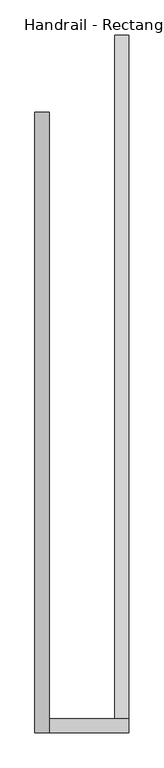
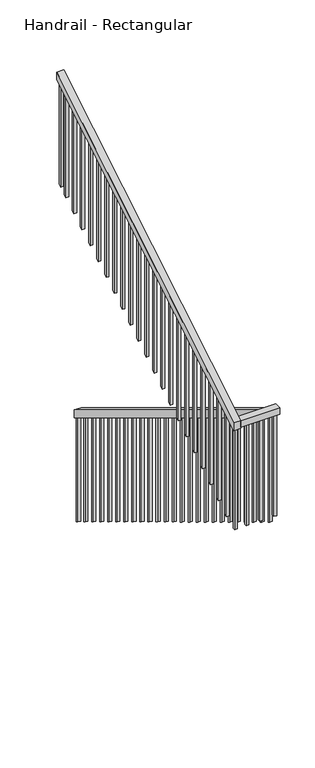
"""IFC4 building model written with IfcOpenShell, lengths in millimetres: railing geometry, Handrail - Rectangular."""

from ifc_helpers import new_model, si_unit, frame, origin, place, context, project, spatial, polyline, outline, extrude, source, transform, mapped, element, save


def handrail_rectangular_09896a94(model_context):
    return source(origin(), model_context, "Body", "SweptSolid", [
        extrude(outline(polyline([(-5400.0103492, -1964.2666667), (-5400.0103492, -2023.6681269), (-7863.8103492, -530.4560057), (-7863.8103492, -471.0545455), (-5400.0103492, -1964.2666667)])), frame((1694.5955133, 0.0, 0.0), z_axis=(1.0, 0.0, 0.0), x_axis=(0.0, 1.0, 0.0)), (0.0, 0.0, 1.0), 50.8),
        extrude(outline(polyline([(1745.3955133, -7863.8103492), (1745.3955133, -7914.6103492), (1457.5474728, -7914.6103492), (1457.5474728, -7863.8103492), (1745.3955133, -7863.8103492)])), frame((0.0, 0.0, -491.0666667), z_axis=(0.0, 0.0, 1.0), x_axis=(1.0, 0.0, 0.0)), (0.0, 0.0, 1.0), 50.8),
        extrude(outline(polyline([(-7914.6103492, -499.6681269), (-7914.6103492, -440.2666667), (-5679.4103492, 914.4), (-5679.4103492, 854.9985397), (-7914.6103492, -499.6681269)])), frame((1406.7474728, 0.0, 0.0), z_axis=(1.0, 0.0, 0.0), x_axis=(0.0, 1.0, 0.0)), (0.0, 0.0, 1.0), 50.8),
        extrude(outline(polyline([(-5765.1353492, 803.0439943), (-5746.0853492, 814.5894488), (-5746.0853492, 2.3720877), (-5765.1353492, -9.1733668), (-5765.1353492, 803.0439943)])), frame((1422.6224728, 0.0, 0.0), z_axis=(1.0, 0.0, 0.0), x_axis=(0.0, 1.0, 0.0)), (0.0, 0.0, 1.0), 19.05),
        extrude(outline(polyline([(-5866.7353492, 741.4682367), (-5847.6853492, 753.0136913), (-5847.6853492, -59.2036699), (-5866.7353492, -70.7491244), (-5866.7353492, 741.4682367)])), frame((1422.6224728, 0.0, 0.0), z_axis=(1.0, 0.0, 0.0), x_axis=(0.0, 1.0, 0.0)), (0.0, 0.0, 1.0), 19.05),
        extrude(outline(polyline([(-5968.3353492, 679.8924791), (-5949.2853492, 691.4379337), (-5949.2853492, -120.7794274), (-5968.3353492, -132.324882), (-5968.3353492, 679.8924791)])), frame((1422.6224728, 0.0, 0.0), z_axis=(1.0, 0.0, 0.0), x_axis=(0.0, 1.0, 0.0)), (0.0, 0.0, 1.0), 19.05),
        extrude(outline(polyline([(-6069.9353492, 618.3167216), (-6050.8853492, 629.8621761), (-6050.8853492, -182.355185), (-6069.9353492, -193.9006396), (-6069.9353492, 618.3167216)])), frame((1422.6224728, 0.0, 0.0), z_axis=(1.0, 0.0, 0.0), x_axis=(0.0, 1.0, 0.0)), (0.0, 0.0, 1.0), 19.05),
        extrude(outline(polyline([(-6171.5353492, 556.740964), (-6152.4853492, 568.2864185), (-6152.4853492, -243.9309426), (-6171.5353492, -255.4763971), (-6171.5353492, 556.740964)])), frame((1422.6224728, 0.0, 0.0), z_axis=(1.0, 0.0, 0.0), x_axis=(0.0, 1.0, 0.0)), (0.0, 0.0, 1.0), 19.05),
        extrude(outline(polyline([(-6273.1353492, 495.1652064), (-6254.0853492, 506.710661), (-6254.0853492, -305.5067002), (-6273.1353492, -317.0521547), (-6273.1353492, 495.1652064)])), frame((1422.6224728, 0.0, 0.0), z_axis=(1.0, 0.0, 0.0), x_axis=(0.0, 1.0, 0.0)), (0.0, 0.0, 1.0), 19.05),
        extrude(outline(polyline([(-6374.7353492, 433.5894488), (-6355.6853492, 445.1349034), (-6355.6853492, -367.0824577), (-6374.7353492, -378.6279123), (-6374.7353492, 433.5894488)])), frame((1422.6224728, 0.0, 0.0), z_axis=(1.0, 0.0, 0.0), x_axis=(0.0, 1.0, 0.0)), (0.0, 0.0, 1.0), 19.05),
        extrude(outline(polyline([(-6476.3353492, 372.0136913), (-6457.2853492, 383.5591458), (-6457.2853492, -428.6582153), (-6476.3353492, -440.2036699), (-6476.3353492, 372.0136913)])), frame((1422.6224728, 0.0, 0.0), z_axis=(1.0, 0.0, 0.0), x_axis=(0.0, 1.0, 0.0)), (0.0, 0.0, 1.0), 19.05),
        extrude(outline(polyline([(-6577.9353492, 310.4379337), (-6558.8853492, 321.9833882), (-6558.8853492, -490.2339729), (-6577.9353492, -501.7794274), (-6577.9353492, 310.4379337)])), frame((1422.6224728, 0.0, 0.0), z_axis=(1.0, 0.0, 0.0), x_axis=(0.0, 1.0, 0.0)), (0.0, 0.0, 1.0), 19.05),
        extrude(outline(polyline([(-6679.5353492, 248.8621761), (-6660.4853492, 260.4076307), (-6660.4853492, -551.8097305), (-6679.5353492, -563.355185), (-6679.5353492, 248.8621761)])), frame((1422.6224728, 0.0, 0.0), z_axis=(1.0, 0.0, 0.0), x_axis=(0.0, 1.0, 0.0)), (0.0, 0.0, 1.0), 19.05),
        extrude(outline(polyline([(-6781.1353492, 187.2864185), (-6762.0853492, 198.8318731), (-6762.0853492, -613.385488), (-6781.1353492, -624.9309426), (-6781.1353492, 187.2864185)])), frame((1422.6224728, 0.0, 0.0), z_axis=(1.0, 0.0, 0.0), x_axis=(0.0, 1.0, 0.0)), (0.0, 0.0, 1.0), 19.05),
        extrude(outline(polyline([(-6882.7353492, 125.710661), (-6863.6853492, 137.2561155), (-6863.6853492, -674.9612456), (-6882.7353492, -686.5067002), (-6882.7353492, 125.710661)])), frame((1422.6224728, 0.0, 0.0), z_axis=(1.0, 0.0, 0.0), x_axis=(0.0, 1.0, 0.0)), (0.0, 0.0, 1.0), 19.05),
        extrude(outline(polyline([(-6984.3353492, 64.1349034), (-6965.2853492, 75.6803579), (-6965.2853492, -736.5370032), (-6984.3353492, -748.0824577), (-6984.3353492, 64.1349034)])), frame((1422.6224728, 0.0, 0.0), z_axis=(1.0, 0.0, 0.0), x_axis=(0.0, 1.0, 0.0)), (0.0, 0.0, 1.0), 19.05),
        extrude(outline(polyline([(-7085.9353492, 2.5591458), (-7066.8853492, 14.1046004), (-7066.8853492, -798.1127608), (-7085.9353492, -809.6582153), (-7085.9353492, 2.5591458)])), frame((1422.6224728, 0.0, 0.0), z_axis=(1.0, 0.0, 0.0), x_axis=(0.0, 1.0, 0.0)), (0.0, 0.0, 1.0), 19.05),
        extrude(outline(polyline([(-7187.5353492, -59.0166118), (-7168.4853492, -47.4711572), (-7168.4853492, -859.6885183), (-7187.5353492, -871.2339729), (-7187.5353492, -59.0166118)])), frame((1422.6224728, 0.0, 0.0), z_axis=(1.0, 0.0, 0.0), x_axis=(0.0, 1.0, 0.0)), (0.0, 0.0, 1.0), 19.05),
        extrude(outline(polyline([(-7289.1353492, -120.5923693), (-7270.0853492, -109.0469148), (-7270.0853492, -921.2642759), (-7289.1353492, -932.8097305), (-7289.1353492, -120.5923693)])), frame((1422.6224728, 0.0, 0.0), z_axis=(1.0, 0.0, 0.0), x_axis=(0.0, 1.0, 0.0)), (0.0, 0.0, 1.0), 19.05),
        extrude(outline(polyline([(-7390.7353492, -182.1681269), (-7371.6853492, -170.6226724), (-7371.6853492, -982.8400335), (-7390.7353492, -994.385488), (-7390.7353492, -182.1681269)])), frame((1422.6224728, 0.0, 0.0), z_axis=(1.0, 0.0, 0.0), x_axis=(0.0, 1.0, 0.0)), (0.0, 0.0, 1.0), 19.05),
        extrude(outline(polyline([(-7492.3353492, -243.7438845), (-7473.2853492, -232.19843), (-7473.2853492, -1044.4157911), (-7492.3353492, -1055.9612456), (-7492.3353492, -243.7438845)])), frame((1422.6224728, 0.0, 0.0), z_axis=(1.0, 0.0, 0.0), x_axis=(0.0, 1.0, 0.0)), (0.0, 0.0, 1.0), 19.05),
        extrude(outline(polyline([(-7593.9353492, -305.3196421), (-7574.8853492, -293.7741875), (-7574.8853492, -1105.9915486), (-7593.9353492, -1117.5370032), (-7593.9353492, -305.3196421)])), frame((1422.6224728, 0.0, 0.0), z_axis=(1.0, 0.0, 0.0), x_axis=(0.0, 1.0, 0.0)), (0.0, 0.0, 1.0), 19.05),
        extrude(outline(polyline([(-7695.5353492, -366.8953996), (-7676.4853492, -355.3499451), (-7676.4853492, -1167.5673062), (-7695.5353492, -1179.1127608), (-7695.5353492, -366.8953996)])), frame((1422.6224728, 0.0, 0.0), z_axis=(1.0, 0.0, 0.0), x_axis=(0.0, 1.0, 0.0)), (0.0, 0.0, 1.0), 19.05),
        extrude(outline(polyline([(-7797.1353492, -428.4711572), (-7778.0853492, -416.9257027), (-7778.0853492, -1229.1430638), (-7797.1353492, -1240.6885183), (-7797.1353492, -428.4711572)])), frame((1422.6224728, 0.0, 0.0), z_axis=(1.0, 0.0, 0.0), x_axis=(0.0, 1.0, 0.0)), (0.0, 0.0, 1.0), 19.05),
        extrude(outline(polyline([(1526.3205133, -7879.6853492), (1526.3205133, -7898.7353492), (1507.2705133, -7898.7353492), (1507.2705133, -7879.6853492), (1526.3205133, -7879.6853492)])), frame((0.0, 0.0, -1278.4666667), z_axis=(0.0, 0.0, 1.0), x_axis=(1.0, 0.0, 0.0)), (0.0, 0.0, 1.0), 787.4),
        extrude(outline(polyline([(1627.9205133, -7879.6853492), (1627.9205133, -7898.7353492), (1608.8705133, -7898.7353492), (1608.8705133, -7879.6853492), (1627.9205133, -7879.6853492)])), frame((0.0, 0.0, -1278.4666667), z_axis=(0.0, 0.0, 1.0), x_axis=(1.0, 0.0, 0.0)), (0.0, 0.0, 1.0), 787.4),
        extrude(outline(polyline([(-7847.9353492, -540.0772178), (-7828.8853492, -551.6226724), (-7828.8853492, -1363.8400335), (-7847.9353492, -1352.2945789), (-7847.9353492, -540.0772178)])), frame((1710.4705133, 0.0, 0.0), z_axis=(1.0, 0.0, 0.0), x_axis=(0.0, 1.0, 0.0)), (0.0, 0.0, 1.0), 19.05),
        extrude(outline(polyline([(-7746.3353492, -601.6529754), (-7727.2853492, -613.19843), (-7727.2853492, -1425.4157911), (-7746.3353492, -1413.8703365), (-7746.3353492, -601.6529754)])), frame((1710.4705133, 0.0, 0.0), z_axis=(1.0, 0.0, 0.0), x_axis=(0.0, 1.0, 0.0)), (0.0, 0.0, 1.0), 19.05),
        extrude(outline(polyline([(-7644.7353492, -663.228733), (-7625.6853492, -674.7741875), (-7625.6853492, -1486.9915486), (-7644.7353492, -1475.4460941), (-7644.7353492, -663.228733)])), frame((1710.4705133, 0.0, 0.0), z_axis=(1.0, 0.0, 0.0), x_axis=(0.0, 1.0, 0.0)), (0.0, 0.0, 1.0), 19.05),
        extrude(outline(polyline([(-7543.1353492, -724.8044906), (-7524.0853492, -736.3499451), (-7524.0853492, -1548.5673062), (-7543.1353492, -1537.0218517), (-7543.1353492, -724.8044906)])), frame((1710.4705133, 0.0, 0.0), z_axis=(1.0, 0.0, 0.0), x_axis=(0.0, 1.0, 0.0)), (0.0, 0.0, 1.0), 19.05),
        extrude(outline(polyline([(-7441.5353492, -786.3802481), (-7422.4853492, -797.9257027), (-7422.4853492, -1610.1430638), (-7441.5353492, -1598.5976092), (-7441.5353492, -786.3802481)])), frame((1710.4705133, 0.0, 0.0), z_axis=(1.0, 0.0, 0.0), x_axis=(0.0, 1.0, 0.0)), (0.0, 0.0, 1.0), 19.05),
        extrude(outline(polyline([(-7339.9353492, -847.9560057), (-7320.8853492, -859.5014603), (-7320.8853492, -1671.7188214), (-7339.9353492, -1660.1733668), (-7339.9353492, -847.9560057)])), frame((1710.4705133, 0.0, 0.0), z_axis=(1.0, 0.0, 0.0), x_axis=(0.0, 1.0, 0.0)), (0.0, 0.0, 1.0), 19.05),
        extrude(outline(polyline([(-7238.3353492, -909.5317633), (-7219.2853492, -921.0772178), (-7219.2853492, -1733.2945789), (-7238.3353492, -1721.7491244), (-7238.3353492, -909.5317633)])), frame((1710.4705133, 0.0, 0.0), z_axis=(1.0, 0.0, 0.0), x_axis=(0.0, 1.0, 0.0)), (0.0, 0.0, 1.0), 19.05),
        extrude(outline(polyline([(-7136.7353492, -971.1075209), (-7117.6853492, -982.6529754), (-7117.6853492, -1794.8703365), (-7136.7353492, -1783.324882), (-7136.7353492, -971.1075209)])), frame((1710.4705133, 0.0, 0.0), z_axis=(1.0, 0.0, 0.0), x_axis=(0.0, 1.0, 0.0)), (0.0, 0.0, 1.0), 19.05),
        extrude(outline(polyline([(-7035.1353492, -1032.6832784), (-7016.0853492, -1044.228733), (-7016.0853492, -1856.4460941), (-7035.1353492, -1844.9006396), (-7035.1353492, -1032.6832784)])), frame((1710.4705133, 0.0, 0.0), z_axis=(1.0, 0.0, 0.0), x_axis=(0.0, 1.0, 0.0)), (0.0, 0.0, 1.0), 19.05),
        extrude(outline(polyline([(-6933.5353492, -1094.259036), (-6914.4853492, -1105.8044906), (-6914.4853492, -1918.0218517), (-6933.5353492, -1906.4763971), (-6933.5353492, -1094.259036)])), frame((1710.4705133, 0.0, 0.0), z_axis=(1.0, 0.0, 0.0), x_axis=(0.0, 1.0, 0.0)), (0.0, 0.0, 1.0), 19.05),
        extrude(outline(polyline([(-6831.9353492, -1155.8347936), (-6812.8853492, -1167.3802481), (-6812.8853492, -1979.5976092), (-6831.9353492, -1968.0521547), (-6831.9353492, -1155.8347936)])), frame((1710.4705133, 0.0, 0.0), z_axis=(1.0, 0.0, 0.0), x_axis=(0.0, 1.0, 0.0)), (0.0, 0.0, 1.0), 19.05),
        extrude(outline(polyline([(-6730.3353492, -1217.4105512), (-6711.2853492, -1228.9560057), (-6711.2853492, -2041.1733668), (-6730.3353492, -2029.6279123), (-6730.3353492, -1217.4105512)])), frame((1710.4705133, 0.0, 0.0), z_axis=(1.0, 0.0, 0.0), x_axis=(0.0, 1.0, 0.0)), (0.0, 0.0, 1.0), 19.05),
        extrude(outline(polyline([(-6628.7353492, -1278.9863087), (-6609.6853492, -1290.5317633), (-6609.6853492, -2102.7491244), (-6628.7353492, -2091.2036699), (-6628.7353492, -1278.9863087)])), frame((1710.4705133, 0.0, 0.0), z_axis=(1.0, 0.0, 0.0), x_axis=(0.0, 1.0, 0.0)), (0.0, 0.0, 1.0), 19.05),
        extrude(outline(polyline([(-6527.1353492, -1340.5620663), (-6508.0853492, -1352.1075209), (-6508.0853492, -2164.324882), (-6527.1353492, -2152.7794274), (-6527.1353492, -1340.5620663)])), frame((1710.4705133, 0.0, 0.0), z_axis=(1.0, 0.0, 0.0), x_axis=(0.0, 1.0, 0.0)), (0.0, 0.0, 1.0), 19.05),
        extrude(outline(polyline([(-6425.5353492, -1402.1378239), (-6406.4853492, -1413.6832784), (-6406.4853492, -2225.9006396), (-6425.5353492, -2214.355185), (-6425.5353492, -1402.1378239)])), frame((1710.4705133, 0.0, 0.0), z_axis=(1.0, 0.0, 0.0), x_axis=(0.0, 1.0, 0.0)), (0.0, 0.0, 1.0), 19.05),
        extrude(outline(polyline([(-6323.9353492, -1463.7135815), (-6304.8853492, -1475.259036), (-6304.8853492, -2287.4763971), (-6323.9353492, -2275.9309426), (-6323.9353492, -1463.7135815)])), frame((1710.4705133, 0.0, 0.0), z_axis=(1.0, 0.0, 0.0), x_axis=(0.0, 1.0, 0.0)), (0.0, 0.0, 1.0), 19.05),
        extrude(outline(polyline([(-6222.3353492, -1525.289339), (-6203.2853492, -1536.8347936), (-6203.2853492, -2349.0521547), (-6222.3353492, -2337.5067002), (-6222.3353492, -1525.289339)])), frame((1710.4705133, 0.0, 0.0), z_axis=(1.0, 0.0, 0.0), x_axis=(0.0, 1.0, 0.0)), (0.0, 0.0, 1.0), 19.05),
        extrude(outline(polyline([(-6120.7353492, -1586.8650966), (-6101.6853492, -1598.4105512), (-6101.6853492, -2410.6279123), (-6120.7353492, -2399.0824577), (-6120.7353492, -1586.8650966)])), frame((1710.4705133, 0.0, 0.0), z_axis=(1.0, 0.0, 0.0), x_axis=(0.0, 1.0, 0.0)), (0.0, 0.0, 1.0), 19.05),
        extrude(outline(polyline([(-6019.1353492, -1648.4408542), (-6000.0853492, -1659.9863087), (-6000.0853492, -2472.2036699), (-6019.1353492, -2460.6582153), (-6019.1353492, -1648.4408542)])), frame((1710.4705133, 0.0, 0.0), z_axis=(1.0, 0.0, 0.0), x_axis=(0.0, 1.0, 0.0)), (0.0, 0.0, 1.0), 19.05),
        extrude(outline(polyline([(-5917.5353492, -1710.0166118), (-5898.4853492, -1721.5620663), (-5898.4853492, -2533.7794274), (-5917.5353492, -2522.2339729), (-5917.5353492, -1710.0166118)])), frame((1710.4705133, 0.0, 0.0), z_axis=(1.0, 0.0, 0.0), x_axis=(0.0, 1.0, 0.0)), (0.0, 0.0, 1.0), 19.05),
        extrude(outline(polyline([(-5815.9353492, -1771.5923693), (-5796.8853492, -1783.1378239), (-5796.8853492, -2595.355185), (-5815.9353492, -2583.8097305), (-5815.9353492, -1771.5923693)])), frame((1710.4705133, 0.0, 0.0), z_axis=(1.0, 0.0, 0.0), x_axis=(0.0, 1.0, 0.0)), (0.0, 0.0, 1.0), 19.05),
        extrude(outline(polyline([(-5714.3353492, -1833.1681269), (-5695.2853492, -1844.7135815), (-5695.2853492, -2656.9309426), (-5714.3353492, -2645.385488), (-5714.3353492, -1833.1681269)])), frame((1710.4705133, 0.0, 0.0), z_axis=(1.0, 0.0, 0.0), x_axis=(0.0, 1.0, 0.0)), (0.0, 0.0, 1.0), 19.05),
        extrude(outline(polyline([(-5612.7353492, -1894.7438845), (-5593.6853492, -1906.289339), (-5593.6853492, -2718.5067002), (-5612.7353492, -2706.9612456), (-5612.7353492, -1894.7438845)])), frame((1710.4705133, 0.0, 0.0), z_axis=(1.0, 0.0, 0.0), x_axis=(0.0, 1.0, 0.0)), (0.0, 0.0, 1.0), 19.05),
        extrude(outline(polyline([(-5511.1353492, -1956.3196421), (-5492.0853492, -1967.8650966), (-5492.0853492, -2780.0824577), (-5511.1353492, -2768.5370032), (-5511.1353492, -1956.3196421)])), frame((1710.4705133, 0.0, 0.0), z_axis=(1.0, 0.0, 0.0), x_axis=(0.0, 1.0, 0.0)), (0.0, 0.0, 1.0), 19.05),
        extrude(outline(polyline([(-7898.7353492, -490.0469148), (-7879.6853492, -478.5014603), (-7879.6853492, -1278.4666667), (-7898.7353492, -1278.4666667), (-7898.7353492, -490.0469148)])), frame((1422.6224728, 0.0, 0.0), z_axis=(1.0, 0.0, 0.0), x_axis=(0.0, 1.0, 0.0)), (0.0, 0.0, 1.0), 19.05),
        extrude(outline(polyline([(1729.5205133, -7879.6853492), (1729.5205133, -7898.7353492), (1710.4705133, -7898.7353492), (1710.4705133, -7879.6853492), (1729.5205133, -7879.6853492)])), frame((0.0, 0.0, -1278.4666667), z_axis=(0.0, 0.0, 1.0), x_axis=(1.0, 0.0, 0.0)), (0.0, 0.0, 1.0), 787.4),
        extrude(outline(polyline([(-5698.4603492, 843.4530852), (-5679.4103492, 854.9985397), (-5679.4103492, 42.7811786), (-5698.4603492, 31.2357241), (-5698.4603492, 843.4530852)])), frame((1422.6224728, 0.0, 0.0), z_axis=(1.0, 0.0, 0.0), x_axis=(0.0, 1.0, 0.0)), (0.0, 0.0, 1.0), 19.05),
        extrude(outline(polyline([(-5419.0603492, -2012.1226724), (-5400.0103492, -2023.6681269), (-5400.0103492, -2835.885488), (-5419.0603492, -2824.3400335), (-5419.0603492, -2012.1226724)])), frame((1710.4705133, 0.0, 0.0), z_axis=(1.0, 0.0, 0.0), x_axis=(0.0, 1.0, 0.0)), (0.0, 0.0, 1.0), 19.05),
    ])


if __name__ == "__main__":
    model = new_model("IFC4")
    model_context = context("Model", 3, world=origin())
    ifc_project = project(units=[si_unit("LENGTHUNIT", "METRE", prefix="MILLI")], contexts=[model_context])
    site = spatial("IfcSite", under=ifc_project)
    building = spatial("IfcBuilding", under=site)
    placement = place(None, origin())
    handrail_rectangular_shape = handrail_rectangular_09896a94(model_context)
    element("IfcRailing", 1, ObjectType="Handrail - Rectangular", at=placement, inside=building, context=model_context, shape_type="MappedRepresentation", body=[
        mapped(handrail_rectangular_shape, transform((0.0, 0.0, 0.0), x_axis=(1.0, 0.0, 0.0), y_axis=(0.0, 1.0, 0.0), z_axis=(0.0, 0.0, 1.0))),
    ])
    save(model, "model.ifc")
